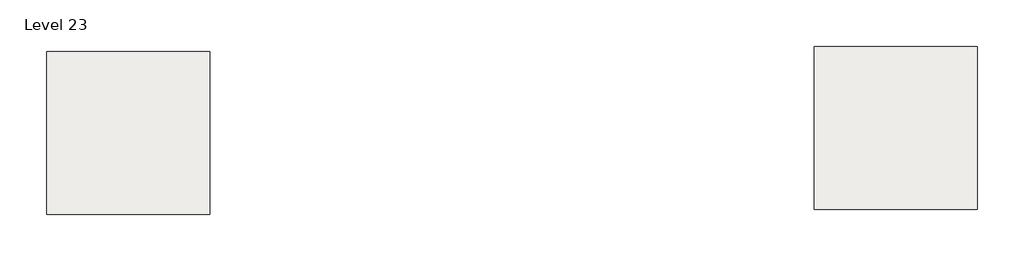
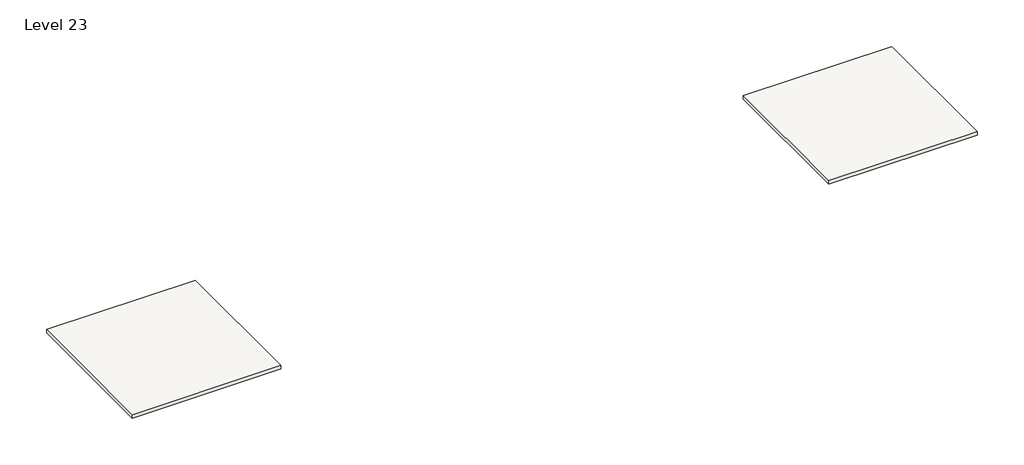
# One storey: 2 slabs.
"""IFC4 building model written with IfcOpenShell, lengths in millimetres."""

import ifcopenshell
import ifcopenshell.guid

model = None  # the IFC model being written
_history = None  # IfcOwnerHistory: only IFC2X3 demands one
_inside = {}  # id of a spatial element -> (the spatial element, [elements in it])
_under = {}  # id of a project, library or spatial element -> (it, [spatial elements below it])
_declared = {}  # id of a project -> (the project, [libraries it declares])
_typed = {}  # id of a type object -> (the type object, [elements of that type])
_made_of = {}  # id of a material, layer set ... -> (it, [elements and type objects made of it])


def new_model(schema):
    """Start an empty IFC model of exactly this schema.

    Asked for "IFC4X3", IfcOpenShell would pick the latest addendum, in which some entities
    have other attributes; the version numbers below select the first issue.
    IFC2X3 requires an IfcOwnerHistory on every rooted entity: one is made here for all.
    """
    global model, _history
    if schema == "IFC4X3":
        model = ifcopenshell.file(schema_version=(4, 3, 0, 0))
    else:
        model = ifcopenshell.file(schema=schema)
    _inside.clear()
    _under.clear()
    _declared.clear()
    _typed.clear()
    _made_of.clear()
    _history = None
    if model.schema == "IFC2X3":
        org = make("IfcOrganization", Name="unknown")
        user = make(
            "IfcPersonAndOrganization",
            ThePerson=make("IfcPerson", FamilyName="unknown"),
            TheOrganization=org,
        )
        app = make(
            "IfcApplication",
            ApplicationDeveloper=org,
            Version="unknown",
            ApplicationFullName="unknown",
            ApplicationIdentifier="unknown",
        )
        _history = make(
            "IfcOwnerHistory",
            OwningUser=user,
            OwningApplication=app,
            ChangeAction="ADDED",
            CreationDate=0,
        )
    return model


def make(cls, **values):
    """One entity of the class cls with the attributes given. An attribute that is None is left unset."""
    return model.create_entity(
        cls, **{name: value for name, value in values.items() if value is not None}
    )


def rooted(cls, **values):
    """An entity with a GlobalId (a new one), such as an element, a storey or a relation."""
    return make(cls, GlobalId=ifcopenshell.guid.new(), OwnerHistory=_history, **values)


def si_unit(unit_type, name, prefix=None):
    """IfcSIUnit, for example si_unit("LENGTHUNIT", "METRE", prefix="MILLI")."""
    return make("IfcSIUnit", UnitType=unit_type, Prefix=prefix, Name=name)


def assignment(units):
    """IfcUnitAssignment: the units of a project."""
    return None if units is None else make("IfcUnitAssignment", Units=units)


def point(xyz):
    """IfcCartesianPoint."""
    return None if xyz is None else make("IfcCartesianPoint", Coordinates=xyz)


def direction(xyz):
    """IfcDirection."""
    return None if xyz is None else make("IfcDirection", DirectionRatios=xyz)


def frame(location, z_axis=None, x_axis=None):
    """IfcAxis2Placement3D, a coordinate frame: its origin and axes. An axis left out is left unset."""
    return make(
        "IfcAxis2Placement3D",
        Location=point(location),
        Axis=direction(z_axis),
        RefDirection=direction(x_axis),
    )


def origin():
    """The frame at (0, 0, 0) with its axes left unset."""
    return frame((0.0, 0.0, 0.0))


def place(relative_to, where):
    """IfcLocalPlacement: puts the frame where relative to a parent placement (None: the world)."""
    return make(
        "IfcLocalPlacement", PlacementRelTo=relative_to, RelativePlacement=where
    )


def context(
    kind, dimensions, precision=None, world=None, true_north=None, identifier=None
):
    """IfcGeometricRepresentationContext, for example the 3D "Model" context."""
    return make(
        "IfcGeometricRepresentationContext",
        ContextIdentifier=identifier,
        ContextType=kind,
        CoordinateSpaceDimension=dimensions,
        Precision=precision,
        WorldCoordinateSystem=world,
        TrueNorth=true_north,
    )


def project(units=None, contexts=None):
    """IfcProject with its units and contexts."""
    return rooted(
        "IfcProject",
        Name="project",
        RepresentationContexts=contexts,
        UnitsInContext=assignment(units),
    )


def spatial(cls, under=None, at=None, **own):
    """A site, building, storey or space (cls), placed at a placement, below another one or the project."""
    s = rooted(cls, ObjectPlacement=at, **own)
    if under is not None:
        _under.setdefault(under.id(), (under, []))[1].append(s)
    return s


def polyline(points):
    """IfcPolyline through the points."""
    return make("IfcPolyline", Points=[point(p) for p in points])


def outline(outer, holes=None, kind="AREA"):
    """IfcArbitraryClosedProfileDef: a profile drawn as a closed curve; with holes, ...WithVoids."""
    if holes is None:
        return make("IfcArbitraryClosedProfileDef", ProfileType=kind, OuterCurve=outer)
    return make(
        "IfcArbitraryProfileDefWithVoids",
        ProfileType=kind,
        OuterCurve=outer,
        InnerCurves=holes,
    )


def extrude(swept, where, along, depth):
    """IfcExtrudedAreaSolid: the profile swept, set in the frame where, extruded along a direction by depth."""
    return make(
        "IfcExtrudedAreaSolid",
        SweptArea=swept,
        Position=where,
        ExtrudedDirection=direction(along),
        Depth=depth,
    )


def shape(context_of_items, identifier, shape_type, items):
    """IfcShapeRepresentation: the items that make up one representation, for example the "Body"."""
    return make(
        "IfcShapeRepresentation",
        ContextOfItems=context_of_items,
        RepresentationIdentifier=identifier,
        RepresentationType=shape_type,
        Items=items,
    )


def made_of(thing, what):
    """Note that an element or type object is made of a material, layer set ...; save() writes the relation."""
    if what is not None:
        _made_of.setdefault(what.id(), (what, []))[1].append(thing)
    return thing


def element(
    cls,
    number,
    at=None,
    inside=None,
    cuts=None,
    type_object=None,
    material=None,
    context=None,
    identifier="Body",
    shape_type=None,
    held_by="IfcProductDefinitionShape",
    body=None,
    shapes=None,
    **own,
):
    """One element of the class cls, such as IfcWall. Its Tag is "e" and its number.

    at: its placement. inside: the storey or other place that contains it. cuts: it is an
    opening in that element (IfcRelVoidsElement). A single representation is given by context,
    identifier, shape_type and body (its items); several are given by shapes. held_by: the class
    of the entity that holds the representations. save() writes the other relations.
    """
    e = rooted(cls, Tag="e%d" % number, ObjectPlacement=at, **own)
    if body is not None:
        shapes = [shape(context, identifier, shape_type, body)]
    if shapes is not None:
        e.Representation = make(held_by, Representations=shapes)
    if inside is not None:
        _inside.setdefault(inside.id(), (inside, []))[1].append(e)
    if cuts is not None:
        rooted(
            "IfcRelVoidsElement", RelatingBuildingElement=cuts, RelatedOpeningElement=e
        )
    if type_object is not None:
        _typed.setdefault(type_object.id(), (type_object, []))[1].append(e)
    return made_of(e, material)


def aggregate(whole, parts):
    """IfcRelAggregates: a whole, such as a stair, and the parts it consists of."""
    return rooted("IfcRelAggregates", RelatingObject=whole, RelatedObjects=parts)


def save(model, path):
    """Write the relations noted so far, then the file.

    IfcRelAggregates (storeys below a building ...), IfcRelContainedInSpatialStructure (elements
    in a storey), IfcRelDefinesByType, IfcRelAssociatesMaterial and IfcRelDeclares: one each for
    every whole, place, type object, material and project.
    """
    for whole, parts in _under.values():
        aggregate(whole, parts)
    for where, things in _inside.values():
        rooted(
            "IfcRelContainedInSpatialStructure",
            RelatedElements=things,
            RelatingStructure=where,
        )
    for kind, things in _typed.values():
        rooted("IfcRelDefinesByType", RelatedObjects=things, RelatingType=kind)
    for what, things in _made_of.values():
        rooted("IfcRelAssociatesMaterial", RelatedObjects=things, RelatingMaterial=what)
    for by, libraries in _declared.values():
        rooted("IfcRelDeclares", RelatingContext=by, RelatedDefinitions=libraries)
    model.write(path)


model = new_model("IFC4")

# Units and contexts
model_context = context("Model", 3, world=origin())
ifc_project = project(units=[si_unit("LENGTHUNIT", "METRE", prefix="MILLI")], contexts=[model_context])

# Site, building, storey
site = spatial("IfcSite", under=ifc_project)
building = spatial("IfcBuilding", under=site)
storey = spatial("IfcBuildingStorey", under=building, Name="Level 23", Elevation=67056.0)

# Slabs
placement = place(None, origin())
element("IfcSlab", 1, ObjectType="Generic - 12\"", at=placement, inside=storey, context=model_context, shape_type="SweptSolid", body=[
    extrude(outline(polyline([(-19315.4161695, 7973.9495511), (-7123.4161695, 7973.9495511), (-7123.4161695, -4218.0504489), (-19315.4161695, -4218.0504489), (-19315.4161695, 7973.9495511)])), frame((0.0, 0.0, 66751.2), z_axis=(0.0, 0.0, 1.0), x_axis=(1.0, 0.0, 0.0)), (0.0, 0.0, 1.0), 304.8),
])
element("IfcSlab", 2, ObjectType="Generic - 12\"", at=placement, inside=storey, context=model_context, shape_type="SweptSolid", body=[
    extrude(outline(polyline([(38118.2903978, 8351.0904402), (50310.2903978, 8351.0904402), (50310.2903978, -3840.9095598), (38118.2903978, -3840.9095598), (38118.2903978, 8351.0904402)])), frame((0.0, 0.0, 66751.2), z_axis=(0.0, 0.0, 1.0), x_axis=(1.0, 0.0, 0.0)), (0.0, 0.0, 1.0), 304.8),
])

save(model, "model.ifc")
